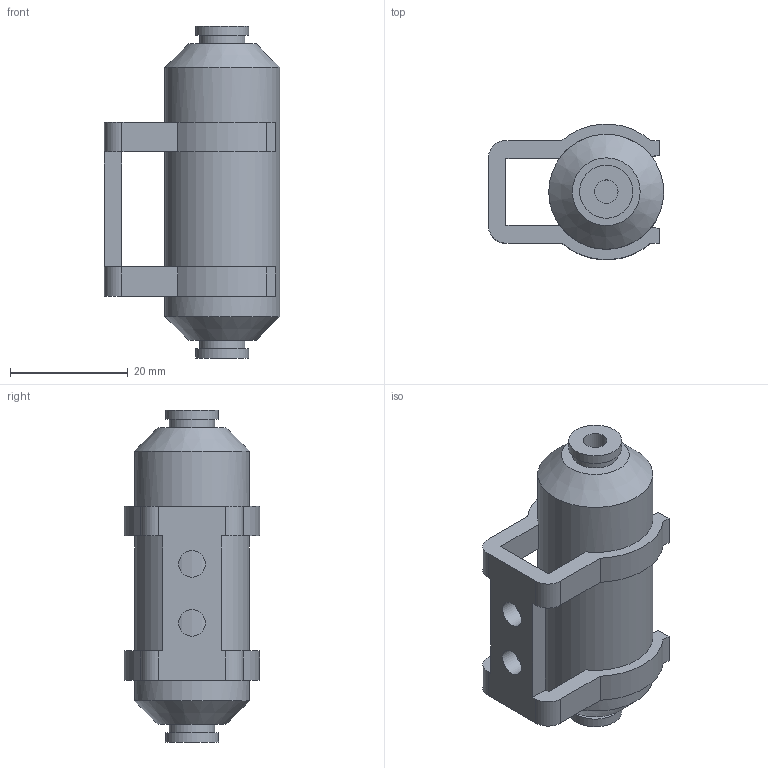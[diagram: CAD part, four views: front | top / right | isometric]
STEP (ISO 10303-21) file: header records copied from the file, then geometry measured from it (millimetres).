
FILE_DESCRIPTION(/* description */ ('FILTRO x VUOTO in LINEA 20 l/min T4'),/* implementation_level */ '2;1');
FILE_NAME(/* name */ 'C:\PNX_VAULTFOLDER\Area Tecnica\Disegni\VARIE-3D\Componenti\1900 (vuoto)\19F04_L_01.stp',/* time_stamp */ '2019-09-13T15:00:40+02:00',/* author */ ('maniean1'),/* organization */ ('Pneumax S.p.A.'),/* preprocessor_version */ 'ST-DEVELOPER v17',/* originating_system */ 'Autodesk Inventor 2019',/* authorisation */ '');
FILE_SCHEMA (('AUTOMOTIVE_DESIGN { 1 0 10303 214 3 1 1 }'));
Length unit declared in the file: millimetre
Products named in the file (1): 19F04.L.01
Bounding box: 29.75 x 22.93 x 56.3 mm (x, y, z)
Volume: 16523.8 mm3; surface area: 5684.1 mm2
Topology: 1 solids, 1 shells, 57 faces, 173 edges, 120 vertices
Faces by surface type: plane 38, cylinder 17, cone 2
Full cylindrical faces by diameter (mm): 4 x2, 4.5 x2, 7.7 x2, 9 x2, 19.5 x1
Entity records: 2042 total; most frequent: DIRECTION 353, CARTESIAN_POINT 351, ORIENTED_EDGE 346, EDGE_CURVE 173, AXIS2_PLACEMENT_3D 122, VERTEX_POINT 120, LINE 109, VECTOR 109
